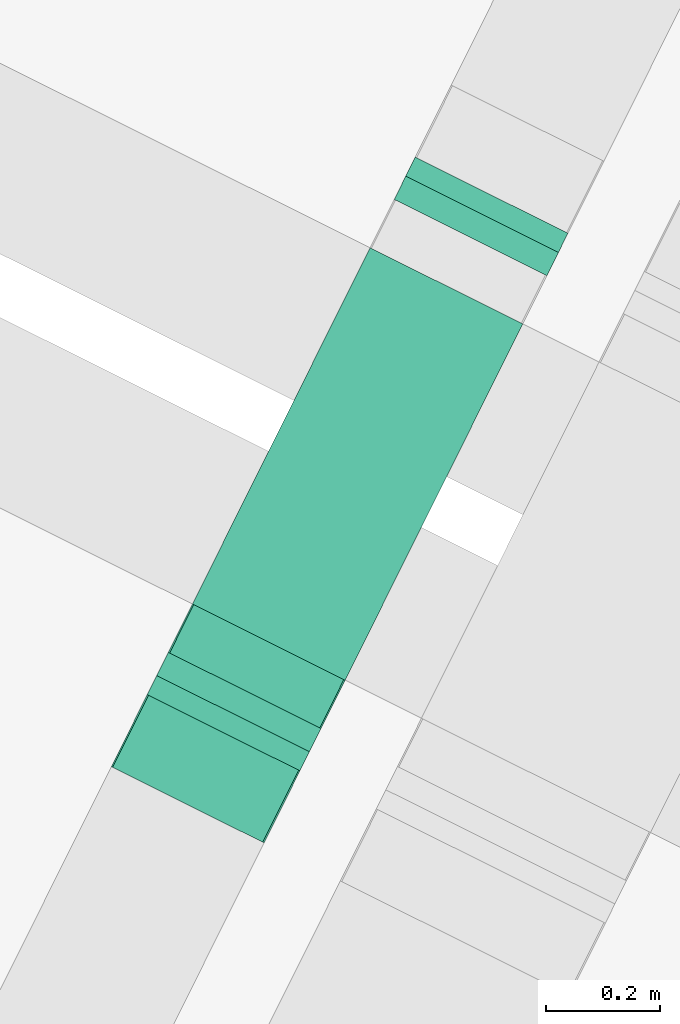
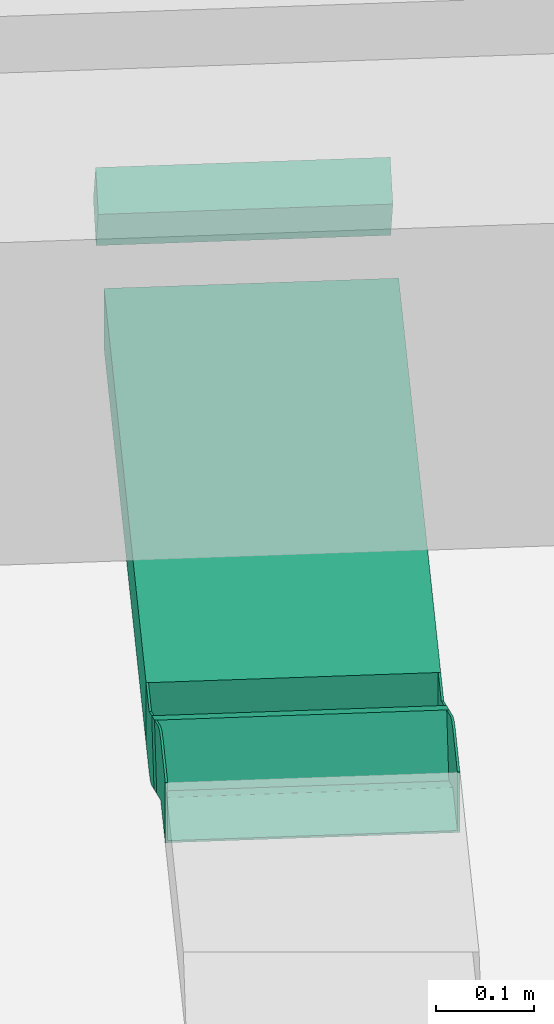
# One storey, part 80 of 91: 3 flow segments, 2 flow fittings.
"""IFC2X3 building model written with IfcOpenShell, lengths in metres."""

from ifc_helpers import new_model, entity, si_unit, converted_unit, derived_unit, direction, frame, frame_2d, origin, place, context, subcontext, project, spatial, rectangle, extrude, faceted_brep, source, transform, mapped, type_object, type_shapes, element, save


model = new_model("IFC2X3")

# Units and contexts
model_context = context("Model", 3, precision=1e-05, world=origin(), true_north=direction((0.894925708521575, 0.446215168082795)))
context_of_model = context(None, 3, precision=1e-05, world=origin(), true_north=direction((0.894925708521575, 0.446215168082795)))
body_context = subcontext(model_context, "Body", "Model", "MODEL_VIEW")
ifc_project = project(units=[si_unit("LENGTHUNIT", "METRE"), si_unit("AREAUNIT", "SQUARE_METRE"), si_unit("VOLUMEUNIT", "CUBIC_METRE"), converted_unit("PLANEANGLEUNIT", "DEGREE", entity("IfcRatioMeasure", 0.0174532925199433), si_unit("PLANEANGLEUNIT", "RADIAN"), dimensions=[0, 0, 0, 0, 0, 0, 0]), si_unit("MASSUNIT", "GRAM", prefix="KILO"), si_unit("TIMEUNIT", "SECOND"), si_unit("FREQUENCYUNIT", "HERTZ"), si_unit("THERMODYNAMICTEMPERATUREUNIT", "DEGREE_CELSIUS"), derived_unit("THERMALTRANSMITTANCEUNIT", [(si_unit("MASSUNIT", "GRAM", prefix="KILO"), 1), (si_unit("THERMODYNAMICTEMPERATUREUNIT", "KELVIN"), -1), (si_unit("TIMEUNIT", "SECOND"), -3)]), derived_unit("VOLUMETRICFLOWRATEUNIT", [(si_unit("LENGTHUNIT", "METRE"), 3), (si_unit("TIMEUNIT", "SECOND"), -1)]), si_unit("ELECTRICCURRENTUNIT", "AMPERE"), si_unit("ELECTRICVOLTAGEUNIT", "VOLT"), si_unit("POWERUNIT", "WATT"), si_unit("FORCEUNIT", "NEWTON", prefix="KILO"), si_unit("ILLUMINANCEUNIT", "LUX"), si_unit("LUMINOUSFLUXUNIT", "LUMEN"), si_unit("LUMINOUSINTENSITYUNIT", "CANDELA"), si_unit("PRESSUREUNIT", "PASCAL")], contexts=[model_context, context_of_model])

# Site, building, storey
site_placement = place(None, frame((218.228324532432, 584.720189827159, 0.0), z_axis=(0.0, 0.0, 1.0), x_axis=(0.446215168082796, 0.894925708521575, 0.0)))
site = spatial("IfcSite", under=ifc_project, at=site_placement, Name="Default", CompositionType="ELEMENT")
building_placement = place(site_placement, origin())
building = spatial("IfcBuilding", under=site, at=building_placement, CompositionType="ELEMENT")
storey_placement = place(building_placement, origin())
storey = spatial("IfcBuildingStorey", under=building, at=storey_placement, Name="0 - Piano Terra", CompositionType="ELEMENT", Elevation=0.0)

# Flow segments
cable_carrier_segment_type = type_object("IfcCableCarrierSegmentType", Name="Passerella con raccordi:Passerella canale", PredefinedType="NOTDEFINED")
flow_segment_1_placement = place(storey_placement, frame((10.616168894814, -3.60107899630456, 3.69822448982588)))
element("IfcFlowSegment", 1, at=flow_segment_1_placement, inside=storey, type_object=cable_carrier_segment_type, Name="Passerella con raccordi:Passerella canale", ObjectType="Passerella con raccordi:Passerella canale", context=body_context, shape_type="SweptSolid", body=[
    extrude(rectangle(XDim=0.0750000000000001, YDim=0.0527002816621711, at=frame_2d((0.0, 0.0), x_axis=(0.0, 1.0))), frame((0.0415698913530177, 0.0, 0.0456510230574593), z_axis=(0.0, 1.0, 0.0), x_axis=(-0.866025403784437, 0.0, 0.500000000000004)), (0.0, 0.0, 1.0), 0.3),
])
flow_segment_2_placement = place(storey_placement, frame((10.7941974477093, -3.60107899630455, 3.66275102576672)))
element("IfcFlowSegment", 2, at=flow_segment_2_placement, inside=storey, type_object=cable_carrier_segment_type, Name="Passerella con raccordi:Passerella canale", ObjectType="Passerella con raccordi:Passerella canale", context=body_context, shape_type="SweptSolid", body=[
    extrude(rectangle(XDim=0.699999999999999, YDim=0.3, at=frame_2d((1.08246744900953e-15, 0.0), x_axis=(1.0, 0.0))), frame((0.350000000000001, 0.150000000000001, 0.0)), (0.0, 0.0, 1.0), 0.0750000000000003),
])
flow_segment_3_placement = place(storey_placement, frame((11.5890862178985, -3.60107899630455, 3.69822448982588)))
element("IfcFlowSegment", 3, at=flow_segment_3_placement, inside=storey, type_object=cable_carrier_segment_type, Name="Passerella con raccordi:Passerella canale", ObjectType="Passerella con raccordi:Passerella canale", context=body_context, shape_type="SweptSolid", body=[
    extrude(rectangle(XDim=0.0750000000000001, YDim=0.0527002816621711, at=frame_2d((2.72351585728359e-16, -4.68375338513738e-16), x_axis=(0.0, 1.0))), frame((0.0415698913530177, 0.0, 0.0456510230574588), z_axis=(0.0, 1.0, 0.0), x_axis=(0.866025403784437, 0.0, 0.500000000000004)), (0.0, 0.0, 1.0), 0.3),
])

# Flow fittings
cable_carrier_fitting_type_1 = type_object("IfcCableCarrierFittingType", Name="Standard", PredefinedType="NOTDEFINED")
shared_shape_1 = source(origin(), body_context, "Body", "Brep", [
    faceted_brep([(-0.0608988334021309, -0.0374999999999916, -0.150000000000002), (-0.0608988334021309, -0.0374999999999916, -0.147460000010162), (-0.0608988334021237, 0.0349600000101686, -0.147460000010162), (-0.0608988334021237, 0.0349600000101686, 0.147460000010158), (-0.0608988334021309, -0.0374999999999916, 0.147460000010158), (-0.0608988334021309, -0.0374999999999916, 0.149999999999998), (-0.0608988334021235, 0.0375000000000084, 0.149999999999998), (-0.0608988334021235, 0.0375000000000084, -0.150000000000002), (0.0702199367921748, -0.000173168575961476, -0.147460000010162), (0.0339899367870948, -0.0629253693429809, -0.147460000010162), (0.0339899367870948, -0.0629253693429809, -0.150000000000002), (0.0714899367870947, 0.00202653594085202, -0.150000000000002), (0.0714899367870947, 0.00202653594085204, 0.149999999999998), (0.0339899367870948, -0.0629253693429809, 0.149999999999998), (0.0339899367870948, -0.0629253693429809, 0.147460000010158), (0.0702199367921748, -0.000173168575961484, 0.147460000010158), (-0.0108988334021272, -0.0374999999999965, 0.149999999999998), (-0.0100770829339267, -0.0376081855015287, 0.149999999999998), (-0.00931133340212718, -0.037925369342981, 0.149999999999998), (0.0281886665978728, 0.027026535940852, 0.149999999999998), (0.00933434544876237, 0.0348362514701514, 0.149999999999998), (-0.0108988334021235, 0.0375000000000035, 0.149999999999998), (-0.0108988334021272, 0.0375000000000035, -0.00436238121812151), (-0.0108988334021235, 0.0375000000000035, -0.150000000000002), (0.00933434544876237, 0.0348362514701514, -0.150000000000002), (0.0281886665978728, 0.027026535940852, -0.150000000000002), (-0.00931133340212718, -0.0379253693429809, -0.150000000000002), (-0.0100770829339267, -0.0376081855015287, -0.150000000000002), (-0.0108988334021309, -0.0374999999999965, -0.150000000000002), (-0.0108988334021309, -0.0374999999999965, -0.147460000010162), (-0.0108988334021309, -0.0374999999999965, 0.147460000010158), (-0.0100770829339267, -0.0376081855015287, -0.147460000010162), (-0.00931133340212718, -0.037925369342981, -0.147460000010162), (0.0269186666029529, 0.0248268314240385, -0.147460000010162), (0.00867694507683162, 0.0323827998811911, -0.147460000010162), (-0.0108988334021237, 0.0349600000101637, -0.147460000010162), (-0.0108988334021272, 0.0349600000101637, -0.00437396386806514), (-0.0108988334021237, 0.0349600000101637, 0.147460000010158), (0.00867694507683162, 0.0323827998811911, 0.147460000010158), (0.0269186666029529, 0.0248268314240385, 0.147460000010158), (-0.00931133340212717, -0.0379253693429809, 0.147460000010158), (-0.0100770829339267, -0.0376081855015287, 0.147460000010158), (0.00517118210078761, 0.0358304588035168, 0.0), (0.0281886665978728, 0.027026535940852, -0.00436237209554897), (0.00483151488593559, 0.0333061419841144, 0.0), (0.0269186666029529, 0.0248268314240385, -0.00437395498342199)], [[[0, 1, 2, 3, 4, 5, 6, 7]], [[8, 9, 10, 11, 12, 13, 14, 15]], [[5, 16, 17, 18, 13, 12, 19, 20, 21, 6]], [[21, 22, 23, 7, 6]], [[7, 23, 24, 25, 11, 10, 26, 27, 28, 0]], [[29, 1, 0, 28]], [[16, 5, 4, 30]], [[1, 29, 31, 32, 9, 8, 33, 34, 35, 2]], [[35, 36, 37, 3, 2]], [[3, 37, 38, 39, 15, 14, 40, 41, 30, 4]], [[42, 23, 22, 21]], [[25, 24, 43]], [[20, 19, 43]], [[24, 23, 42]], [[42, 20, 43]], [[24, 42, 43]], [[20, 42, 21]], [[28, 27, 31, 29]], [[16, 30, 41, 17]], [[31, 27, 26, 32]], [[41, 40, 18, 17]], [[37, 36, 35, 44]], [[45, 34, 33]], [[45, 39, 38]], [[44, 35, 34]], [[45, 38, 44]], [[45, 44, 34]], [[37, 44, 38]], [[11, 25, 43, 19, 12]], [[9, 32, 26, 10]], [[13, 18, 40, 14]], [[15, 39, 45, 33, 8]]]),
])
type_shapes(cable_carrier_fitting_type_1, [shared_shape_1])
flow_fitting_1_placement = place(storey_placement, frame((10.7332986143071, -3.45107899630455, 3.70025102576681), z_axis=(0.0, -1.0, 0.0), x_axis=(-1.0, 0.0, 0.0)))
element("IfcFlowFitting", 4, at=flow_fitting_1_placement, inside=storey, type_object=cable_carrier_fitting_type_1, Name="M_Curvatura interna verticale canale:Standard", ObjectType="Standard", context=body_context, shape_type="MappedRepresentation", body=[
    mapped(shared_shape_1, transform((0.0, 0.0, 0.0), scale=1.0)),
])
cable_carrier_fitting_type_2 = type_object("IfcCableCarrierFittingType", Name="Standard", PredefinedType="NOTDEFINED")
shared_shape_2 = source(origin(), body_context, "Body", "Brep", [
    faceted_brep([(-0.0858988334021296, -0.0374999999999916, -0.150000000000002), (-0.0858988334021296, -0.0374999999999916, 0.149999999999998), (-0.0858988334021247, 0.0375000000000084, 0.149999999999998), (-0.0858988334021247, 0.0375000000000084, 0.147460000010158), (-0.0858988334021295, -0.0349600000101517, 0.147460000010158), (-0.0858988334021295, -0.0349600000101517, -0.147460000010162), (-0.0858988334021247, 0.0375000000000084, -0.147460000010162), (-0.0858988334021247, 0.0375000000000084, -0.150000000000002), (0.0931405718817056, -0.0104734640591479, -0.150000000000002), (0.0931405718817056, -0.0104734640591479, -0.147460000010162), (0.0569105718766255, -0.0732256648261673, -0.147460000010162), (0.0569105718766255, -0.0732256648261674, 0.147460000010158), (0.0931405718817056, -0.0104734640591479, 0.147460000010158), (0.0931405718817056, -0.0104734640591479, 0.149999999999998), (0.0556405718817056, -0.0754253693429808, 0.149999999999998), (0.0556405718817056, -0.0754253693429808, -0.150000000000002), (-0.0108988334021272, -0.0374999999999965, 0.149999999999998), (-0.0100770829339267, -0.0376081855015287, 0.149999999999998), (-0.00931133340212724, -0.037925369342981, 0.149999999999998), (0.0281886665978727, 0.027026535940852, 0.149999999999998), (0.0187615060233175, 0.0309313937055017, 0.149999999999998), (0.0093343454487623, 0.0348362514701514, 0.149999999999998), (-0.000782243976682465, 0.0361681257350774, 0.149999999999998), (-0.0108988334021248, 0.0375000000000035, 0.149999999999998), (-0.0108988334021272, -0.0374999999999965, -0.150000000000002), (-0.0108988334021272, -0.0374999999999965, -0.142222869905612), (-0.0108988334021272, -0.0374999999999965, -0.134445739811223), (-0.0108988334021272, -0.0374999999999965, -0.126668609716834), (-0.0108988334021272, -0.0374999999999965, -0.118891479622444), (-0.0108988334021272, -0.0374999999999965, -0.111114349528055), (-0.0108988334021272, -0.0374999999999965, -0.103337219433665), (-0.0108988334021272, -0.0374999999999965, -0.0955600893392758), (-0.0108988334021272, -0.0374999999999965, -0.0877829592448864), (-0.0108988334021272, -0.0374999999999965, -0.0822965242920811), (-0.0108988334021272, -0.0374999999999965, -0.0768100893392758), (-0.0108988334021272, -0.0374999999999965, -0.0713236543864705), (-0.0108988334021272, -0.0374999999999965, -0.0658372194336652), (-0.0108988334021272, -0.0374999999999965, -0.06035078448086), (-0.0108988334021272, -0.0374999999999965, -0.0548643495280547), (-0.0108988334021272, -0.0374999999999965, -0.0493779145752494), (-0.0108988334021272, -0.0374999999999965, -0.0438914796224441), (-0.0108988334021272, -0.0374999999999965, -0.0384050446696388), (-0.0108988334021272, -0.0374999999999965, -0.0329186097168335), (-0.0108988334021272, -0.0374999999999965, -0.0274321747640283), (-0.0108988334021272, -0.0374999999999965, -0.021945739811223), (-0.0108988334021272, -0.0374999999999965, -0.0164593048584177), (-0.0108988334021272, -0.0374999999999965, -0.0109728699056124), (-0.0108988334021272, -0.0374999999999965, -0.00548643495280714), (-0.0108988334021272, -0.0374999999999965, 0.0), (-0.0108988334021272, -0.0374999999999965, 0.00468749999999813), (-0.0108988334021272, -0.0374999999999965, 0.00937499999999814), (-0.0108988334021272, -0.0374999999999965, 0.0187499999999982), (-0.0108988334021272, -0.0374999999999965, 0.0281249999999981), (-0.0108988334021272, -0.0374999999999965, 0.0328124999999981), (-0.0108988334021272, -0.0374999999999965, 0.0374999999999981), (-0.0108988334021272, -0.0374999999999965, 0.0468749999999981), (-0.0108988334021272, -0.0374999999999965, 0.0562499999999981), (-0.0108988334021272, -0.0374999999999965, 0.0656249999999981), (-0.0108988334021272, -0.0374999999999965, 0.0749999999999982), (-0.0108988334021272, -0.0374999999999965, 0.0843749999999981), (-0.0108988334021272, -0.0374999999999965, 0.0890624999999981), (-0.0108988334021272, -0.0374999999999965, 0.0937499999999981), (-0.0108988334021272, -0.0374999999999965, 0.103124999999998), (-0.0108988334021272, -0.0374999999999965, 0.112499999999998), (-0.0108988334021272, -0.0374999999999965, 0.121874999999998), (-0.0108988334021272, -0.0374999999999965, 0.131249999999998), (-0.0108988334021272, -0.0374999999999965, 0.136736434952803), (-0.0108988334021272, -0.0374999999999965, 0.142222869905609), (-0.0108988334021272, 0.0375000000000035, -0.150000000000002), (-0.00136101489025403, 0.0362443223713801, -0.150000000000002), (0.0093343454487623, 0.0348362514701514, -0.150000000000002), (0.0187615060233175, 0.0309313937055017, -0.150000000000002), (0.0281886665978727, 0.027026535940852, -0.150000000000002), (-0.00931133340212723, -0.0379253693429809, -0.150000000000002), (-0.0100770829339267, -0.0376081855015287, -0.150000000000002), (-0.0108988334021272, 0.0375000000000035, -0.147460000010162), (-0.0108988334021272, 0.0375000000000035, 0.147460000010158), (-0.0108988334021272, -0.0349600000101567, -0.147460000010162), (-0.00941968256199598, -0.0351547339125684, -0.147460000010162), (-0.00804133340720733, -0.0357256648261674, -0.147460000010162), (0.0281886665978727, 0.027026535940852, -0.147460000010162), (0.0187615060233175, 0.0309313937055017, -0.147460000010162), (0.0093343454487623, 0.0348362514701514, -0.147460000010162), (-0.000782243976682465, 0.0361681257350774, -0.147460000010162), (-0.0108988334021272, -0.0349600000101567, 0.147460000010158), (-0.0108988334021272, -0.0349600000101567, 0.137025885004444), (-0.0108988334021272, -0.0349600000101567, 0.12659176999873), (-0.0108988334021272, -0.0349600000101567, 0.110595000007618), (-0.0108988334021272, -0.0349600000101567, 0.0921625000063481), (-0.0108988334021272, -0.0349600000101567, 0.0737300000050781), (-0.0108988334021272, -0.0349600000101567, 0.0552975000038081), (-0.0108988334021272, -0.0349600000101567, 0.0368650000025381), (-0.0108988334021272, -0.0349600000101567, 0.0184325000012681), (-0.0108988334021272, -0.0349600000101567, 0.0), (-0.0108988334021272, -0.0349600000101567, -0.0159967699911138), (-0.0108988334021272, -0.0349600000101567, -0.0319935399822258), (-0.0108988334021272, -0.0349600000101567, -0.0479903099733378), (-0.0108988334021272, -0.0349600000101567, -0.0639870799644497), (-0.0108988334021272, -0.0349600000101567, -0.0744211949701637), (-0.0108988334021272, -0.0349600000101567, -0.0848553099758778), (-0.0108988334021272, -0.0349600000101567, -0.0952894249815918), (-0.0108988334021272, -0.0349600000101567, -0.105723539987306), (-0.0108988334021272, -0.0349600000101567, -0.11615765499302), (-0.0108988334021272, -0.0349600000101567, -0.126591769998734), (-0.0108988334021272, -0.0349600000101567, -0.137025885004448), (-0.000782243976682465, 0.0361681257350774, 0.147460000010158), (0.0093343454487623, 0.0348362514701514, 0.147460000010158), (0.0193008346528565, 0.0307079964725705, 0.147460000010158), (0.0281886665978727, 0.027026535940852, 0.147460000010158), (-0.00804133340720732, -0.0357256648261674, 0.147460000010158), (-0.00941968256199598, -0.0351547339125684, 0.147460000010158), (-0.0100160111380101, -0.0376252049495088, 0.0878571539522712), (-0.00931133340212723, -0.0379253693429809, -0.0731899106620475), (-0.00931133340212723, -0.0379253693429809, -0.0677034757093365), (-0.0101159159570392, -0.0375980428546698, -0.0740668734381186), (-0.00931133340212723, -0.0379253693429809, -0.0786763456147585), (-0.0101159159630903, -0.0375980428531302, -0.052121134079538), (-0.00931133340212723, -0.0379253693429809, -0.0567306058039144), (-0.00931133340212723, -0.0379253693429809, -0.0512441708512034), (-0.00931133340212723, -0.0379253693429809, -0.0457577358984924), (-0.0100062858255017, -0.0376280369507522, 0.0107980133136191), (-0.0100430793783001, -0.0376174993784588, 0.017385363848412), (-0.00931133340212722, -0.0379253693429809, -0.146111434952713), (-0.0100060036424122, -0.0376281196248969, -0.142569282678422), (-0.00931133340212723, -0.0379253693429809, 0.0200794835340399), (-0.0101719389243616, -0.0375843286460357, 0.0236284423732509), (-0.00931133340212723, -0.0379253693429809, 0.14222286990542), (-0.0100770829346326, -0.0376081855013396, 0.138334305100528), (-0.00931133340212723, -0.0379253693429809, 0.134445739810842), (-0.00999532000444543, -0.0376312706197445, 0.122780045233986), (-0.0100663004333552, -0.0376110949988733, 0.0542475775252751), (-0.00931133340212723, -0.0379253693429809, 0.0566744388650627), (-0.010097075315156, -0.0376028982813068, 0.0605630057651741), (-0.0101157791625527, -0.0375980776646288, -0.129790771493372), (-0.0100389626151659, -0.0376186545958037, -0.119824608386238), (-0.01011591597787, -0.0375980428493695, -0.0301753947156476), (-0.0099977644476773, -0.0376305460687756, 0.0761172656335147), (-0.00931133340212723, -0.0379253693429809, 0.0800058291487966), (-0.0100662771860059, -0.0376111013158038, 0.0824060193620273), (-0.00931133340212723, -0.0379253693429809, 0.0333430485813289), (-0.00931133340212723, -0.0379253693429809, 0.0411201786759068), (-0.0100563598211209, -0.0376138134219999, 0.0388108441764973), (-0.00931133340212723, -0.0379253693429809, -0.0292984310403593), (-0.00931133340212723, -0.0379253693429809, -0.0238119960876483), (-0.00931133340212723, -0.0379253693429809, -0.0347848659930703), (-0.00931133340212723, -0.0379253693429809, -0.00735269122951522), (-0.00931133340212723, -0.0379253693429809, -0.0018662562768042), (-0.0101159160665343, -0.0375980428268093, -0.00822965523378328), (-0.00931133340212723, -0.0379253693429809, -0.0128391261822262), (-0.010022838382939, -0.0376232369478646, 0.144167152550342), (-0.0100105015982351, -0.0376268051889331, 0.0450087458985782), (-0.00931133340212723, -0.0379253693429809, 0.0488973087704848), (-0.0100992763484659, -0.0376023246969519, 0.00234375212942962), (-0.0101111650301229, -0.0375992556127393, 0.06937590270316), (-0.00931133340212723, -0.0379253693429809, 0.0145930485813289), (-0.0100494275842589, -0.0376157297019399, -0.136209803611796), (-0.0100191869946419, -0.0376242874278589, -0.0434785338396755), (-0.00931133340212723, -0.0379253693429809, -0.0402713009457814), (-0.0101258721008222, -0.0375955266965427, -0.0371719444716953), (-0.0101258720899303, -0.0375955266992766, -0.0591176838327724), (-0.0100602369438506, -0.0376127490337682, -0.0934055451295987), (-0.0100098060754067, -0.0376270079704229, -0.11311245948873), (-0.0100492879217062, -0.0376157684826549, 0.0933153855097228), (-0.010067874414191, -0.0376106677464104, 0.0994486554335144), (-0.010108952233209, -0.0375998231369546, 0.109805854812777), (-0.00931133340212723, -0.0379253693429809, 0.10333721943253), (-0.00931133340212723, -0.0379253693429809, 0.111114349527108), (-0.0100522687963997, -0.0376149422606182, 0.132170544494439), (-0.00931133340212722, -0.0379253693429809, -0.13902713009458), (-0.010106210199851, -0.0376005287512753, 0.116092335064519), (-0.00931133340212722, -0.0379253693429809, -0.133540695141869), (-0.0101258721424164, -0.0375955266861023, -0.0152262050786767), (-0.00931133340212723, -0.0379253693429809, -0.0183255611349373), (-0.0100191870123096, -0.0376242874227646, -0.0215327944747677), (-0.0101258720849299, -0.0375955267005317, -0.0810634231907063), (-0.00931133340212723, -0.0379253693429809, -0.0622170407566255), (-0.0100191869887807, -0.037624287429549, -0.0654242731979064), (-0.00931133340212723, -0.0379253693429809, -0.0951356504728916), (-0.00931133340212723, -0.0379253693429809, -0.0896492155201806), (-0.00931133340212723, -0.0379253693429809, -0.0841627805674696), (-0.0100191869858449, -0.0376242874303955, -0.0873700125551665), (-0.00931133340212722, -0.0379253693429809, -0.122567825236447), (-0.00931133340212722, -0.0379253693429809, -0.117081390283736), (-0.0101042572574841, -0.0376010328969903, -0.105576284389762), (-0.00931133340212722, -0.0379253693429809, -0.111594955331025), (-0.00931133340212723, -0.0379253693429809, -0.106108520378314), (-0.00931133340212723, -0.0379253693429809, -0.100622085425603), (-0.00931133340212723, -0.0379253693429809, 0.126668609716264), (-0.00931133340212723, -0.0379253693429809, 0.118891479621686), (-0.00931133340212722, -0.0379253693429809, -0.128054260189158), (-0.00931133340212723, -0.0379253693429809, 0.0955600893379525), (-0.00931133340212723, -0.0379253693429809, 0.0877829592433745), (-0.00931133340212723, -0.0379253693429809, 0.0722286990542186), (-0.00931133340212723, -0.0379253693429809, 0.0644515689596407), (-0.0100612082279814, -0.0376124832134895, 0.0304687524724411), (-0.00931133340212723, -0.0379253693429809, 0.0255659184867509), (-0.00931133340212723, -0.0379253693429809, 0.00910661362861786), (-0.00931133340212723, -0.0379253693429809, 0.00362017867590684), (-0.0100571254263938, -0.0376136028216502, -0.0994486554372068), (-0.00943516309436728, -0.0351506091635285, -0.0450563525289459), (-0.00804133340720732, -0.0357256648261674, -0.0535529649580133), (-0.00941968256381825, -0.0351547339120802, -0.0559886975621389), (-0.00941968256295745, -0.0351547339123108, -0.0796382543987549), (-0.00941968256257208, -0.0351547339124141, -0.093108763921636), (-0.00941968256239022, -0.0351547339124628, -0.107538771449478), (-0.00941968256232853, -0.0351547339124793, -0.118338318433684), (-0.00941968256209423, -0.0351547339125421, -0.131808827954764), (-0.00941968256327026, -0.035154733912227, -0.0670727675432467), (-0.00804133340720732, -0.0357256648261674, 0.115466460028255), (-0.00951383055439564, -0.0351303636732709, 0.119704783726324), (-0.00804133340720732, -0.0357256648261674, 0.131463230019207), (-0.00938820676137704, -0.0351632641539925, 0.0142687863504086), (-0.009539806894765, -0.035123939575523, 0.0276487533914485), (-0.00944772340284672, -0.0351472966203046, 0.0964175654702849), (-0.00938732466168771, -0.0351635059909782, 0.00298298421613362), (-0.00804133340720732, -0.0357256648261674, -0.0639870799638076), (-0.00804133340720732, -0.0357256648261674, -0.0744211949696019), (-0.00804133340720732, -0.0357256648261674, -0.0848553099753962), (-0.00804133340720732, -0.0357256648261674, -0.0952894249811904), (-0.00804133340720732, -0.0357256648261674, -0.105723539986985), (-0.00804133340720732, -0.0357256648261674, -0.116157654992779), (-0.00804133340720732, -0.0357256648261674, -0.126591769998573), (-0.00804133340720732, -0.0357256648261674, -0.137025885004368), (-0.00931691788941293, -0.0351833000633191, 0.0731869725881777), (-0.00960988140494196, -0.0351072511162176, 0.0843997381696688), (-0.00939822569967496, -0.0351605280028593, -0.0274676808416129), (-0.00804133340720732, -0.0357256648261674, -0.0222506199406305), (-0.00804133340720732, -0.0357256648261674, -0.0326847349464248), (-0.00938352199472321, -0.0351645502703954, 0.0609207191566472), (-0.00804133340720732, -0.0357256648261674, 0.0354826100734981), (-0.00804133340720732, -0.0357256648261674, 0.0194858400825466), (-0.0092916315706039, -0.0351906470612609, -0.0159019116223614), (-0.00950624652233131, -0.0351322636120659, 0.131808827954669), (-0.00925164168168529, -0.0352025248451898, 0.107597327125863), (-0.00804133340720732, -0.0357256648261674, 0.0994696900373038), (-0.00804133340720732, -0.0357256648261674, 0.0834729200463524), (-0.00804133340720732, -0.0357256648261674, 0.0674761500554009), (-0.00804133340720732, -0.0357256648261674, -0.043118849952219), (-0.00939896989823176, -0.0351603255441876, 0.0385250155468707), (-0.00953825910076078, -0.0351243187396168, 0.0497283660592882), (-0.00804133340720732, -0.0357256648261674, 0.00905172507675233), (-0.00804133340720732, -0.0357256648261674, -0.0118165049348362), (-0.00804133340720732, -0.0357256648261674, -0.00138238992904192), (-0.00804133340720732, -0.0357256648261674, 0.0514793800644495)], [[[0, 1, 2, 3, 4, 5, 6, 7]], [[8, 9, 10, 11, 12, 13, 14, 15]], [[1, 16, 17, 18, 14, 13, 19, 20, 21, 22, 23, 2]], [[16, 1, 0, 24, 25, 26, 27, 28, 29, 30, 31, 32, 33, 34, 35, 36, 37, 38, 39, 40, 41, 42, 43, 44, 45, 46, 47, 48, 49, 50, 51, 52, 53, 54, 55, 56, 57, 58, 59, 60, 61, 62, 63, 64, 65, 66, 67]], [[7, 68, 69, 70, 71, 72, 8, 15, 73, 74, 24, 0]], [[75, 68, 7, 6]], [[23, 76, 3, 2]], [[5, 77, 78, 79, 10, 9, 80, 81, 82, 83, 75, 6]], [[77, 5, 4, 84, 85, 86, 87, 88, 89, 90, 91, 92, 93, 94, 95, 96, 97, 98, 99, 100, 101, 102, 103, 104]], [[3, 76, 105, 106, 107, 108, 12, 11, 109, 110, 84, 4]], [[59, 111, 60]], [[112, 113, 114, 115]], [[116, 117, 118, 119]], [[114, 35, 34]], [[116, 39, 38]], [[50, 120, 121]], [[122, 123, 74]], [[121, 124, 125]], [[74, 73, 122]], [[126, 127, 128]], [[129, 65, 64]], [[130, 131, 132]], [[27, 133, 134]], [[135, 43, 42]], [[136, 137, 138]], [[139, 140, 141]], [[142, 143, 135, 144]], [[145, 146, 147, 148]], [[127, 126, 149]], [[130, 150, 151]], [[147, 146, 152]], [[57, 153, 58]], [[141, 140, 150]], [[120, 154, 121]], [[155, 25, 123]], [[156, 157, 158]], [[159, 117, 116]], [[31, 160, 32]], [[29, 28, 161]], [[132, 153, 57]], [[61, 162, 163]], [[164, 165, 166]], [[167, 66, 65]], [[122, 168, 123]], [[164, 166, 169]], [[149, 67, 127]], [[170, 133, 155]], [[167, 128, 127]], [[25, 155, 26]], [[16, 67, 149]], [[25, 24, 74]], [[127, 67, 66]], [[18, 17, 149]], [[171, 148, 147]], [[158, 144, 135]], [[172, 171, 173]], [[174, 115, 114]], [[175, 159, 176]], [[160, 177, 178]], [[179, 174, 180]], [[66, 167, 127]], [[123, 168, 155]], [[74, 123, 25]], [[155, 168, 170]], [[133, 181, 134]], [[134, 182, 161]], [[155, 133, 26]], [[29, 161, 183]], [[161, 28, 134]], [[182, 134, 181]], [[27, 134, 28]], [[183, 184, 185, 186]], [[167, 129, 187]], [[48, 47, 152, 49]], [[167, 65, 129]], [[187, 129, 188]], [[188, 129, 169]], [[187, 128, 167]], [[133, 170, 189, 181]], [[169, 64, 63]], [[64, 169, 129]], [[63, 62, 164]], [[169, 63, 164]], [[166, 188, 169]], [[162, 190, 163]], [[165, 163, 190]], [[164, 62, 163]], [[164, 163, 165]], [[61, 163, 62]], [[138, 58, 136]], [[191, 190, 162]], [[138, 111, 59]], [[136, 192, 137]], [[58, 138, 59]], [[137, 191, 138]], [[136, 153, 192]], [[58, 153, 136]], [[193, 132, 131]], [[130, 132, 56]], [[193, 192, 153]], [[162, 61, 60]], [[153, 132, 193]], [[57, 56, 132]], [[111, 138, 191]], [[141, 150, 54]], [[150, 130, 55]], [[130, 56, 55]], [[151, 150, 140]], [[151, 131, 130]], [[54, 150, 55]], [[125, 194, 52]], [[141, 54, 53]], [[52, 194, 53]], [[195, 194, 125]], [[194, 139, 141]], [[53, 194, 141]], [[195, 139, 194]], [[52, 51, 125]], [[121, 125, 51]], [[50, 121, 51]], [[124, 195, 125]], [[120, 50, 49]], [[152, 196, 120]], [[49, 152, 120]], [[18, 149, 126]], [[147, 46, 171]], [[46, 147, 47]], [[173, 45, 44, 43]], [[45, 173, 171]], [[152, 47, 147]], [[146, 197, 196, 152]], [[135, 143, 173]], [[135, 42, 158]], [[43, 135, 173]], [[156, 41, 40, 39]], [[176, 37, 36, 35]], [[41, 156, 158]], [[116, 119, 156]], [[116, 38, 159]], [[39, 116, 156]], [[37, 176, 159]], [[114, 113, 176]], [[114, 34, 174]], [[35, 114, 176]], [[29, 183, 30]], [[180, 33, 32]], [[33, 180, 174]], [[30, 198, 31]], [[160, 178, 180]], [[198, 177, 160]], [[183, 198, 30]], [[183, 186, 198]], [[121, 154, 124]], [[143, 172, 173]], [[119, 157, 156]], [[113, 175, 176]], [[178, 179, 180]], [[183, 161, 184]], [[32, 160, 180]], [[31, 198, 160]], [[196, 154, 120]], [[149, 17, 16]], [[161, 182, 184]], [[171, 172, 148]], [[158, 157, 144]], [[159, 175, 117]], [[174, 179, 115]], [[26, 133, 27]], [[191, 162, 111]], [[60, 111, 162]], [[171, 46, 45]], [[158, 42, 41]], [[159, 38, 37]], [[174, 34, 33]], [[186, 177, 198]], [[82, 70, 69, 68, 75, 83]], [[23, 22, 21, 106, 105, 76]], [[71, 70, 82, 81, 80, 72]], [[21, 20, 19, 108, 107, 106]], [[199, 200, 201]], [[202, 203, 204, 205, 206, 78, 77, 104, 103, 102, 101, 100, 99, 98, 97, 96, 201, 207]], [[85, 84, 110]], [[208, 209, 210]], [[211, 92, 212]], [[88, 87, 213]], [[211, 214, 93]], [[202, 207, 201, 200, 215, 216, 217, 218, 219, 220, 221, 222, 79, 78, 206, 205, 204, 203]], [[210, 110, 109]], [[223, 89, 224]], [[225, 226, 227]], [[223, 228, 89]], [[229, 230, 212]], [[94, 93, 231]], [[231, 225, 94]], [[209, 232, 210]], [[233, 87, 209]], [[232, 85, 110]], [[85, 232, 86]], [[209, 86, 232]], [[210, 232, 110]], [[209, 87, 86]], [[213, 234, 235]], [[234, 213, 233]], [[233, 209, 208]], [[224, 213, 235]], [[233, 208, 234]], [[233, 213, 87]], [[224, 88, 213]], [[224, 89, 88]], [[236, 228, 223]], [[201, 96, 199]], [[235, 223, 224]], [[92, 91, 212]], [[199, 227, 237, 200]], [[238, 212, 91]], [[239, 238, 91]], [[214, 211, 240]], [[240, 211, 230]], [[92, 211, 93]], [[211, 212, 230]], [[229, 212, 238]], [[199, 96, 95]], [[95, 94, 225]], [[227, 199, 225]], [[231, 226, 225]], [[95, 225, 199]], [[241, 226, 231, 242]], [[214, 242, 231]], [[238, 243, 229]], [[239, 228, 243]], [[90, 89, 228]], [[236, 223, 235]], [[90, 228, 239]], [[228, 236, 243]], [[90, 239, 91]], [[238, 239, 243]], [[93, 214, 231]], [[242, 214, 240]], [[14, 18, 126, 128, 187, 188, 166, 165, 190, 191, 137, 192, 193, 131, 151, 140, 139, 195, 124, 154, 196, 197, 146, 145, 148, 172, 143, 142, 144, 157, 119, 118, 117, 175, 113, 112, 115, 179, 178, 177, 186, 185, 184, 182, 181, 189, 170, 168, 122, 73, 15]], [[8, 72, 80, 9]], [[12, 108, 19, 13]], [[10, 79, 222, 221, 220, 219, 218, 217, 216, 215, 200, 237, 227, 226, 241, 242, 240, 230, 229, 243, 236, 235, 234, 208, 210, 109, 11]]]),
])
type_shapes(cable_carrier_fitting_type_2, [shared_shape_2])
flow_fitting_2_placement = place(storey_placement, frame((10.5605283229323, -3.45107899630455, 3.80000000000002), z_axis=(0.0, -1.0, 0.0), x_axis=(1.0, 0.0, 0.0)))
element("IfcFlowFitting", 5, at=flow_fitting_2_placement, inside=storey, type_object=cable_carrier_fitting_type_2, Name="M_Curvatura esterna verticale canale:Standard", ObjectType="Standard", context=body_context, shape_type="MappedRepresentation", body=[
    mapped(shared_shape_2, transform((0.0, 0.0, 0.0), scale=1.0)),
])

save(model, "model.ifc")
